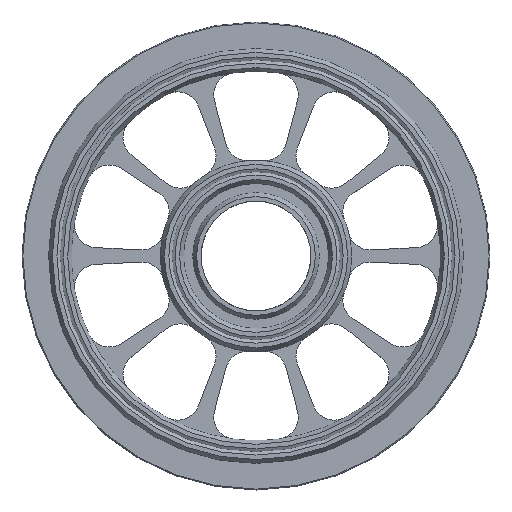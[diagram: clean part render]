
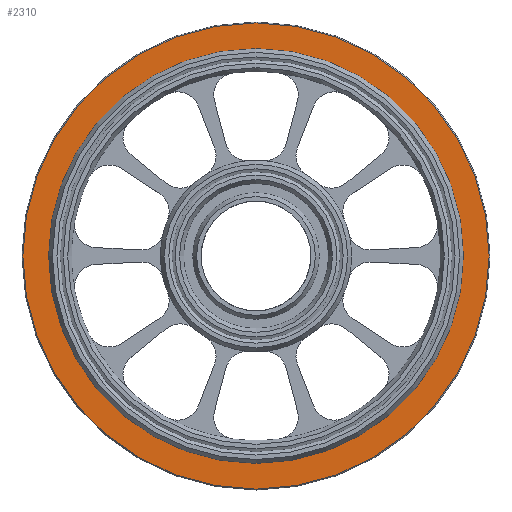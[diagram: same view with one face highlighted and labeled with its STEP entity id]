
A CAD part, top view. The second image highlights one B-rep face of the part: STEP entity #2310.
In plain terms, the highlighted planar face has unit normal (0, 0, 1).
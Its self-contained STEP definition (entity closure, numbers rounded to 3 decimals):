
#46=FACE_BOUND('',#335,.T.);
#94=PLANE('',#2603);
#196=FACE_OUTER_BOUND('',#334,.T.);
#334=EDGE_LOOP('',(#2021));
#335=EDGE_LOOP('',(#2022));
#854=CIRCLE('',#2597,103.58);
#859=CIRCLE('',#2604,92.169);
#1076=VERTEX_POINT('',#4024);
#1081=VERTEX_POINT('',#4038);
#1400=EDGE_CURVE('',#1076,#1076,#854,.T.);
#1407=EDGE_CURVE('',#1081,#1081,#859,.T.);
#2021=ORIENTED_EDGE('',*,*,#1400,.F.);
#2022=ORIENTED_EDGE('',*,*,#1407,.F.);
#2310=ADVANCED_FACE('',(#196,#46),#94,.T.);
#2597=AXIS2_PLACEMENT_3D('',#4025,#3291,#3292);
#2603=AXIS2_PLACEMENT_3D('',#4037,#3305,#3306);
#2604=AXIS2_PLACEMENT_3D('',#4039,#3307,#3308);
#3291=DIRECTION('center_axis',(0.,0.,-1.));
#3292=DIRECTION('ref_axis',(-1.,0.,0.));
#3305=DIRECTION('center_axis',(0.,0.,1.));
#3306=DIRECTION('ref_axis',(1.,0.,0.));
#3307=DIRECTION('center_axis',(0.,0.,1.));
#3308=DIRECTION('ref_axis',(1.,0.,0.));
#4024=CARTESIAN_POINT('',(103.58,0.,1.99));
#4025=CARTESIAN_POINT('Origin',(0.,0.,1.99));
#4037=CARTESIAN_POINT('Origin',(92.169,0.,1.99));
#4038=CARTESIAN_POINT('',(-92.169,0.,1.99));
#4039=CARTESIAN_POINT('Origin',(0.,0.,1.99));
